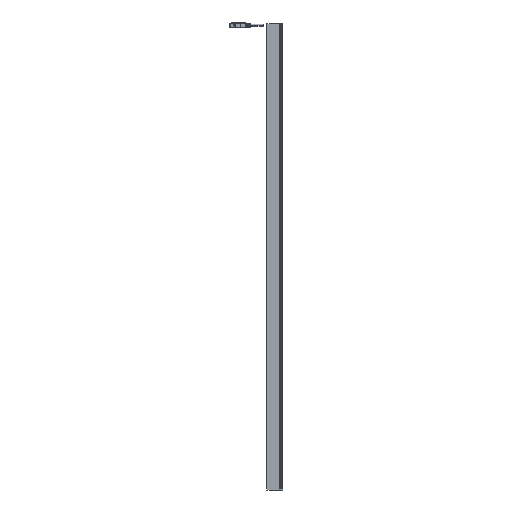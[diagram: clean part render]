
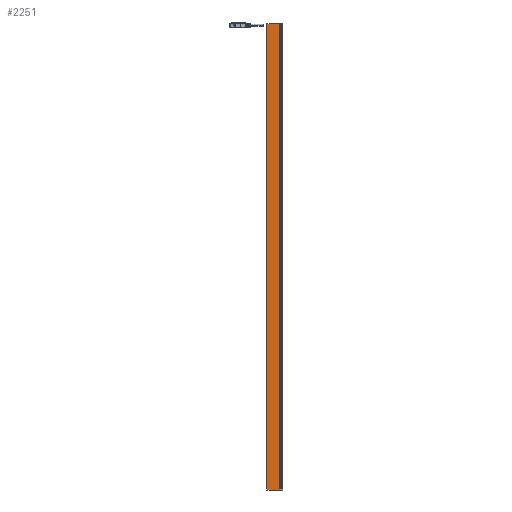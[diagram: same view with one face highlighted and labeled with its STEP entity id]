
A CAD part, left-side view. The second image highlights one B-rep face of the part: STEP entity #2251.
In plain terms, the highlighted planar face has unit normal (-1, 0, 0).
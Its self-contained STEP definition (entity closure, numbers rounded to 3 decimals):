
#21=DIRECTION('',(0.,-1.,0.));
#22=VECTOR('',#21,20.8);
#23=CARTESIAN_POINT('',(-14.,26.5,-388.5));
#24=LINE('',#23,#22);
#525=DIRECTION('',(0.,0.,1.));
#526=VECTOR('',#525,777.);
#527=CARTESIAN_POINT('',(-14.,5.7,-388.5));
#528=LINE('',#527,#526);
#529=DIRECTION('',(0.,0.,1.));
#530=VECTOR('',#529,777.);
#531=CARTESIAN_POINT('',(-14.,26.5,-388.5));
#532=LINE('',#531,#530);
#791=DIRECTION('',(0.,-1.,0.));
#792=VECTOR('',#791,20.8);
#793=CARTESIAN_POINT('',(-14.,26.5,388.5));
#794=LINE('',#793,#792);
#963=CARTESIAN_POINT('',(-14.,26.5,-388.5));
#964=VERTEX_POINT('',#963);
#965=CARTESIAN_POINT('',(-14.,5.7,-388.5));
#966=VERTEX_POINT('',#965);
#1091=CARTESIAN_POINT('',(-14.,26.5,388.5));
#1092=VERTEX_POINT('',#1091);
#1093=CARTESIAN_POINT('',(-14.,5.7,388.5));
#1094=VERTEX_POINT('',#1093);
#2238=CARTESIAN_POINT('',(-14.,26.5,-388.5));
#2239=DIRECTION('',(-1.,0.,0.));
#2240=DIRECTION('',(0.,-1.,0.));
#2241=AXIS2_PLACEMENT_3D('',#2238,#2239,#2240);
#2242=PLANE('',#2241);
#2243=ORIENTED_EDGE('',*,*,#1272,.F.);
#2245=ORIENTED_EDGE('',*,*,#2244,.T.);
#2247=ORIENTED_EDGE('',*,*,#2246,.T.);
#2248=ORIENTED_EDGE('',*,*,#2230,.F.);
#2249=EDGE_LOOP('',(#2243,#2245,#2247,#2248));
#2250=FACE_OUTER_BOUND('',#2249,.F.);
#1272=EDGE_CURVE('',#964,#966,#24,.T.);
#2230=EDGE_CURVE('',#966,#1094,#528,.T.);
#2244=EDGE_CURVE('',#964,#1092,#532,.T.);
#2246=EDGE_CURVE('',#1092,#1094,#794,.T.);
#2251=ADVANCED_FACE('',(#2250),#2242,.T.);
